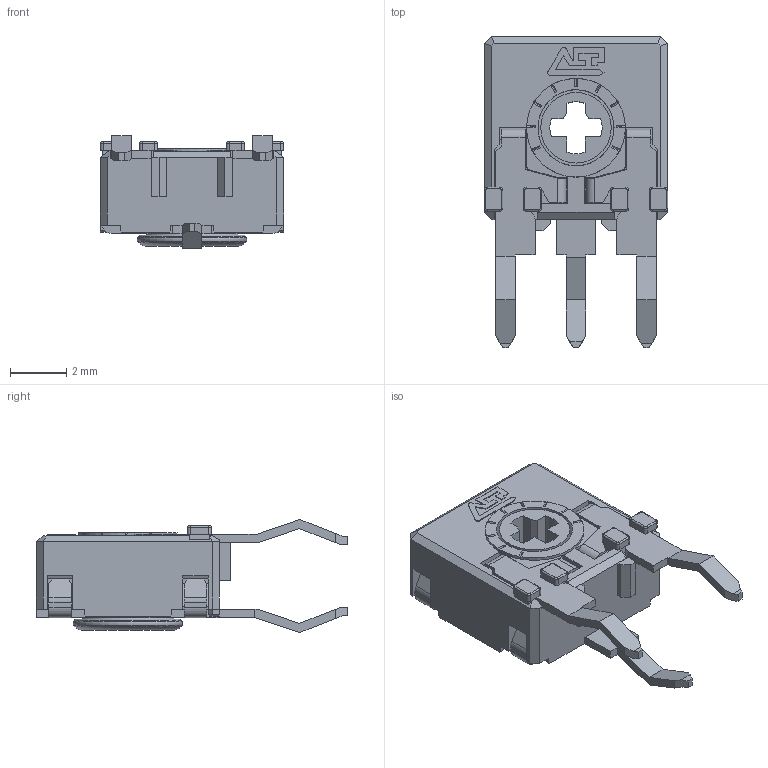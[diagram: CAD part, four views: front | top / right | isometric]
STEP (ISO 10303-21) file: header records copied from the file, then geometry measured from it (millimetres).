
FILE_DESCRIPTION(/* description */ (''),/* implementation_level */ '2;1');
FILE_NAME(/* name */ 'C:\Users\CEM\Desktop\ENVIAR\TRANSICION 3D CATALOGOS\COMCA6XH2,5 SNP.stp',/* time_stamp */ '2026-03-20T08:24:26+01:00',/* author */ ('CEM'),/* organization */ (''),/* preprocessor_version */ 'ST-DEVELOPER v16.13',/* originating_system */ 'Autodesk Inventor 2018',/* authorisation */ '');
FILE_SCHEMA (('AUTOMOTIVE_DESIGN { 1 0 10303 214 3 1 1 }'));
Length unit declared in the file: millimetre
Products named in the file (1): CARCASA CA6
Bounding box: 6.5 x 11.05 x 4 mm (x, y, z)
Volume: 89.5 mm3; surface area: 379.8 mm2
Topology: 1 solids, 1 shells, 532 faces, 1479 edges, 946 vertices
Faces by surface type: plane 415, cylinder 78, cone 17, bspline 16, torus 6
Full cylindrical faces by diameter (mm): 2.5 x1, 2.7 x1, 2.9 x1, 3.1 x1, 3.5 x1
Entity records: 16941 total; most frequent: CARTESIAN_POINT 3117, ORIENTED_EDGE 2924, DIRECTION 2710, EDGE_CURVE 1461, LINE 1194, VECTOR 1194, VERTEX_POINT 943, AXIS2_PLACEMENT_3D 758
